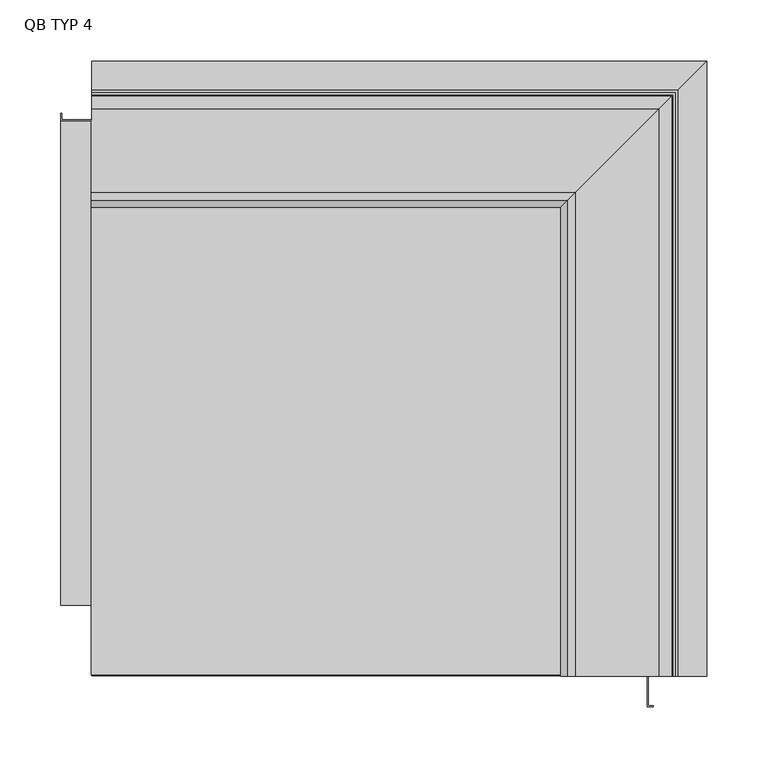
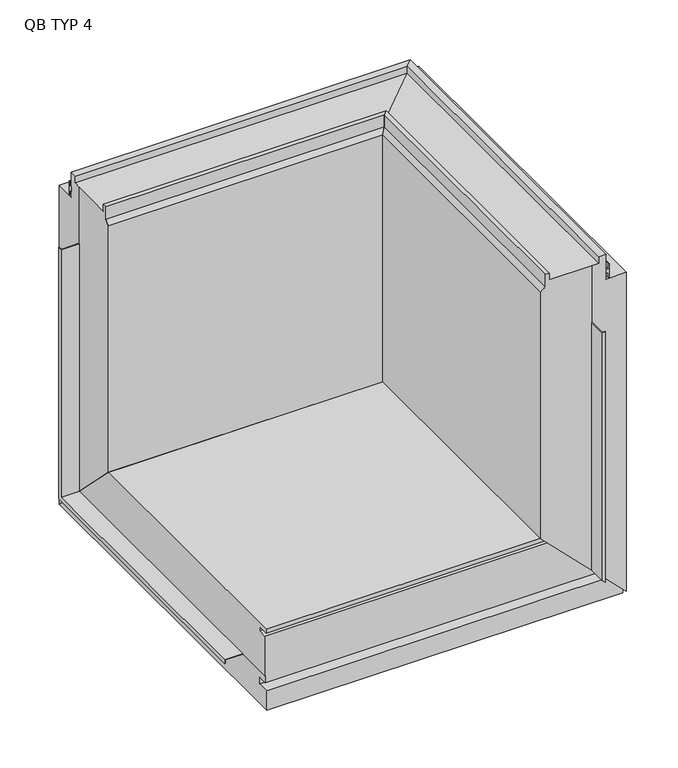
"""IFC4 building model written with IfcOpenShell, lengths in millimetres: plate geometry, TR_C_H_QBISS_Corner_3D_edge cut_A : QB TYP 4."""

from ifc_helpers import new_model, si_unit, origin, place, context, project, spatial, faceted_brep, source, transform, mapped, element, save


def qb_typ_4_65a9b30b(model_context):
    return source(origin(), model_context, "Body", "Brep", [
        faceted_brep([(214.5, -529.5, 416.0), (214.5, -528.6642127, 416.0), (210.3, -528.6642127, 416.0), (210.3, -504.3, 416.0), (209.5, -504.3, 416.0), (209.5, -529.5, 416.0), (214.5, -529.5, 44.0), (214.5, -528.6642127, 44.0), (210.3, -528.6642127, 48.2), (210.3, -504.3, 48.2), (209.5, -504.3, 49.0), (209.5, -529.5, 49.0)], [[[0, 1, 2, 3, 4, 5]], [[1, 0, 6, 7]], [[2, 1, 7, 8]], [[3, 2, 8, 9]], [[4, 3, 9, 10]], [[5, 4, 10, 11]], [[0, 5, 11, 6]], [[7, 6, 11, 10, 9, 8]]]),
        faceted_brep([(150.5, -504.5, 500.0), (150.5, -504.5, 510.0), (144.5, -504.5, 510.0), (144.5, -504.5, 492.0), (138.5, -504.5, 486.0), (138.5, -504.5, 120.0), (209.5, -504.5, 49.0), (209.5, -504.5, 500.0), (258.5, -504.3, 0.0), (258.5, 0.0, 0.0), (258.5, 0.0, 473.0), (258.5, -504.3, 473.0), (229.5, -29.0, 473.0), (229.5, -504.3, 473.0), (229.5, -504.3, 510.0), (229.5, -29.0, 510.0), (219.5, -504.3, 510.0), (219.5, -39.0, 510.0), (219.5, -504.3, 500.0), (219.5, -39.0, 500.0), (209.5, -504.3, 500.0), (150.5, -108.0, 500.0), (150.5, -108.0, 510.0), (144.5, -114.0, 510.0), (144.5, -114.0, 492.0), (138.5, -120.0, 486.0), (138.5, -120.0, 120.0), (138.5, -504.3, 120.0), (209.5, -504.3, 49.0)], [[[0, 1, 2, 3, 4, 5, 6, 7]], [[8, 9, 10, 11]], [[11, 10, 12, 13]], [[14, 13, 12, 15]], [[16, 14, 15, 17]], [[18, 16, 17, 19]], [[0, 7, 20, 18, 19, 21]], [[1, 0, 21, 22]], [[2, 1, 22, 23]], [[3, 2, 23, 24]], [[4, 3, 24, 25]], [[5, 4, 25, 26, 27]], [[28, 20, 7, 6]], [[20, 28, 8, 11, 13, 14, 16, 18]], [[10, 9, 26, 25, 24, 23, 22, 21, 19, 17, 15, 12]], [[6, 5, 27, 26, 9, 8, 28]]]),
        faceted_brep([(234.5, -504.3, 494.5), (233.0001683, -504.3, 494.5), (233.0001683, -504.3, 487.7023593), (230.5001707, -504.3, 487.7023593), (230.5001707, -504.3, 488.5023593), (229.7001572, -504.3, 488.5023593), (229.7001572, -504.3, 480.5023028), (230.5001707, -504.3, 480.5023028), (230.5001707, -504.3, 481.3023028), (233.0001683, -504.3, 481.3023028), (233.0001683, -504.3, 474.5), (234.5, -504.3, 474.5), (-245.8, -24.0, 494.5), (-245.8, -24.0, 474.5), (-245.8, -25.4998317, 474.5), (-245.8, -25.4998317, 481.3023028), (-245.8, -27.9998293, 481.3023028), (-245.8, -27.9998293, 480.5023028), (-245.8, -28.7998428, 480.5023028), (-245.8, -28.7998428, 488.5023593), (-245.8, -27.9998293, 488.5023593), (-245.8, -27.9998293, 487.7023593), (-245.8, -25.4998317, 487.7023593), (-245.8, -25.4998317, 494.5), (234.5, -24.0, 494.5), (233.0001683, -25.4998317, 494.5), (233.0001683, -25.4998317, 487.7023593), (230.5001707, -27.9998293, 487.7023593), (230.5001707, -27.9998293, 488.5023593), (229.7001572, -28.7998428, 488.5023593), (229.7001572, -28.7998428, 480.5023028), (230.5001707, -27.9998293, 480.5023028), (230.5001707, -27.9998293, 481.3023028), (233.0001683, -25.4998317, 481.3023028), (233.0001683, -25.4998317, 474.5), (234.5, -24.0, 474.5)], [[[0, 1, 2, 3, 4, 5, 6, 7, 8, 9, 10, 11]], [[12, 13, 14, 15, 16, 17, 18, 19, 20, 21, 22, 23]], [[1, 0, 24, 12, 23, 25]], [[2, 1, 25, 26]], [[3, 2, 26, 22, 21, 27]], [[4, 3, 27, 28]], [[5, 4, 28, 20, 19, 29]], [[6, 5, 29, 30]], [[7, 6, 30, 18, 17, 31]], [[8, 7, 31, 32]], [[9, 8, 32, 16, 15, 33]], [[10, 9, 33, 34]], [[11, 10, 34, 14, 13, 35]], [[0, 11, 35, 24]], [[26, 25, 23, 22]], [[28, 27, 21, 20]], [[30, 29, 19, 18]], [[32, 31, 17, 16]], [[34, 33, 15, 14]], [[24, 35, 13, 12]]]),
        faceted_brep([(-271.0, -49.0, 416.0), (-245.8, -49.0, 416.0), (-245.8, -48.2, 416.0), (-270.2, -48.2, 416.0), (-270.2, -43.0, 416.0), (-271.0, -43.0, 416.0), (-271.0, -43.0, 43.0), (-271.0, -446.0, 43.0), (-271.0, -446.0, 49.0), (-271.0, -49.0, 49.0), (-270.2, -43.0, 43.0), (-270.2, -48.2, 48.2), (-270.2, -446.0, 48.2), (-270.2, -446.0, 43.0), (-245.8, -48.2, 48.2), (-245.8, -49.0, 49.0), (-245.8, -446.0, 49.0), (-245.8, -446.0, 48.2)], [[[0, 1, 2, 3, 4, 5]], [[0, 5, 6, 7, 8, 9]], [[5, 4, 10, 6]], [[4, 3, 11, 12, 13, 10]], [[3, 2, 14, 11]], [[2, 1, 15, 16, 17, 14]], [[1, 0, 9, 15]], [[8, 7, 13, 12, 17, 16]], [[6, 10, 13, 7]], [[11, 14, 17, 12]], [[15, 9, 8, 16]]]),
        faceted_brep([(-246.0, -120.0, 120.0), (-246.0, -120.0, 486.0), (-246.0, -114.0, 492.0), (-246.0, -114.0, 510.0), (-246.0, -108.0, 510.0), (-246.0, -108.0, 500.0), (-246.0, -49.0, 500.0), (-246.0, -49.0, 49.0), (-245.8, 0.0, 0.0), (-245.8, 0.0, 49.0), (-245.8, 0.0, 473.0), (258.5, 0.0, 473.0), (258.5, 0.0, 0.0), (-245.8, -29.0, 473.0), (229.5, -29.0, 473.0), (-245.8, -29.0, 510.0), (229.5, -29.0, 510.0), (-245.8, -39.0, 510.0), (219.5, -39.0, 510.0), (-245.8, -39.0, 500.0), (219.5, -39.0, 500.0), (150.5, -108.0, 500.0), (-245.8, -49.0, 500.0), (150.5, -108.0, 510.0), (144.5, -114.0, 510.0), (144.5, -114.0, 492.0), (138.5, -120.0, 486.0), (138.5, -120.0, 120.0), (-245.8, -49.0, 49.0)], [[[0, 1, 2, 3, 4, 5, 6, 7]], [[8, 9, 10, 11, 12]], [[10, 13, 14, 11]], [[13, 15, 16, 14]], [[15, 17, 18, 16]], [[17, 19, 20, 18]], [[6, 5, 21, 20, 19, 22]], [[5, 4, 23, 21]], [[4, 3, 24, 23]], [[3, 2, 25, 24]], [[2, 1, 26, 25]], [[1, 0, 27, 26]], [[0, 7, 28, 8, 12, 27]], [[22, 28, 7, 6]], [[28, 22, 19, 17, 15, 13, 10, 9, 8]], [[12, 11, 14, 16, 18, 20, 21, 23, 24, 25, 26, 27]]]),
        faceted_brep([(-246.0, -503.0, 120.0), (-246.0, -120.0, 120.0), (-246.0, -49.0, 49.0), (-246.0, -500.0, 49.0), (-246.0, -500.0, 108.0), (-246.0, -487.0, 108.0), (-246.0, -487.0, 114.0), (-246.0, -503.0, 114.0), (253.5, -503.0, 114.0), (253.5, -503.0, 120.0), (253.5, -487.0, 114.0), (253.5, -487.0, 108.0), (253.5, -500.0, 108.0), (-245.8, -500.0, 49.0), (-245.8, -500.0, 39.0), (253.5, -500.0, 39.0), (-245.8, -487.0, 39.0), (253.5, -487.0, 39.0), (-245.8, -487.0, 29.0), (253.5, -487.0, 29.0), (-245.8, -504.0, 29.0), (253.5, -504.0, 29.0), (-245.8, -504.0, 0.0), (253.5, -504.0, 0.0), (-245.8, 0.0, 0.0), (253.5, 0.0, 0.0), (253.5, -120.0, 120.0), (-245.8, -49.0, 49.0)], [[[0, 1, 2, 3, 4, 5, 6, 7]], [[0, 7, 8, 9]], [[7, 6, 10, 8]], [[6, 5, 11, 10]], [[5, 4, 12, 11]], [[4, 3, 13, 14, 15, 12]], [[14, 16, 17, 15]], [[16, 18, 19, 17]], [[18, 20, 21, 19]], [[20, 22, 23, 21]], [[22, 24, 25, 23]], [[2, 1, 26, 25, 24, 27]], [[1, 0, 9, 26]], [[13, 27, 24, 22, 20, 18, 16, 14]], [[27, 13, 3, 2]], [[9, 8, 10, 11, 12, 15, 17, 19, 21, 23, 25, 26]]]),
    ])


if __name__ == "__main__":
    model = new_model("IFC4")
    model_context = context("Model", 3, world=origin())
    ifc_project = project(units=[si_unit("LENGTHUNIT", "METRE", prefix="MILLI")], contexts=[model_context])
    site = spatial("IfcSite", under=ifc_project)
    building = spatial("IfcBuilding", under=site)
    placement = place(None, origin())
    qb_typ_4_shape = qb_typ_4_65a9b30b(model_context)
    element("IfcPlate", 1, ObjectType="TR_C_H_QBISS_Corner_3D_edge cut_A : QB TYP 4", at=placement, inside=building, context=model_context, shape_type="MappedRepresentation", body=[
        mapped(qb_typ_4_shape, transform((0.0, 0.0, 0.0), x_axis=(1.0, 0.0, 0.0), y_axis=(0.0, 1.0, 0.0), z_axis=(0.0, 0.0, 1.0))),
    ])
    save(model, "model.ifc")
